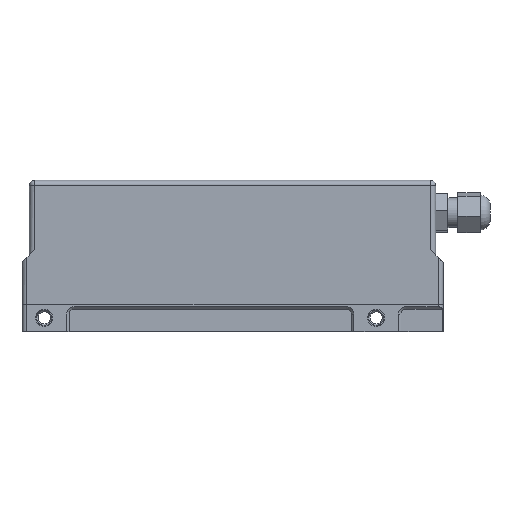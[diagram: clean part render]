
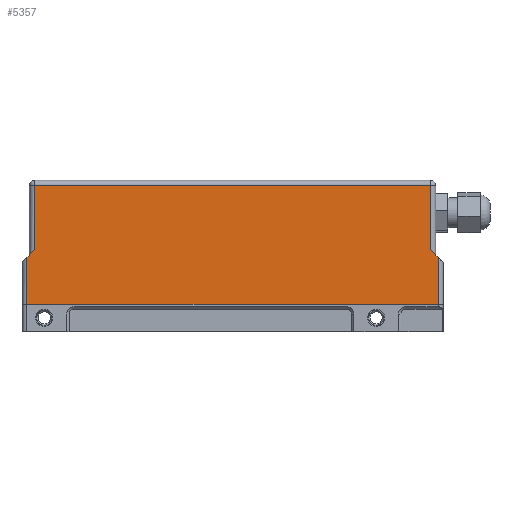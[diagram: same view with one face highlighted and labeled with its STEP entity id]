
A CAD part, top view. The second image highlights one B-rep face of the part: STEP entity #5357.
In plain terms, the highlighted planar face has unit normal (0, 0, 1).
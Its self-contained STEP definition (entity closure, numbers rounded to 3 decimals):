
#64 = CARTESIAN_POINT ( 'NONE',  ( 0., 50., 0. ) ) ;
#71 = PLANE ( 'NONE',  #3450 ) ;
#73 = DIRECTION ( 'NONE',  ( 0., 0., -1. ) ) ;
#74 = DIRECTION ( 'NONE',  ( -1., 0., 0. ) ) ;
#943 = FACE_OUTER_BOUND ( 'NONE', #7427, .T. ) ;
#1691 = VERTEX_POINT ( 'NONE', #4470 ) ;
#1702 = VERTEX_POINT ( 'NONE', #4481 ) ;
#2543 = EDGE_CURVE ( 'NONE', #7506, #7616, #6182, .T. ) ;
#2544 = EDGE_CURVE ( 'NONE', #1691, #7506, #6180, .T. ) ;
#2545 = EDGE_CURVE ( 'NONE', #1691, #7507, #6184, .T. ) ;
#2546 = EDGE_CURVE ( 'NONE', #7338, #7507, #6181, .T. ) ;
#2552 = EDGE_CURVE ( 'NONE', #7616, #1702, #6198, .T. ) ;
#2554 = EDGE_CURVE ( 'NONE', #7329, #1702, #6202, .T. ) ;
#2555 = EDGE_CURVE ( 'NONE', #7329, #7528, #6204, .T. ) ;
#2893 = CARTESIAN_POINT ( 'NONE',  ( -168., 19., 0. ) ) ;
#2902 = CARTESIAN_POINT ( 'NONE',  ( -2., 0., 0. ) ) ;
#2928 = CARTESIAN_POINT ( 'NONE',  ( -5., 48., 0. ) ) ;
#2929 = CARTESIAN_POINT ( 'NONE',  ( -2., 19., 0. ) ) ;
#2950 = CARTESIAN_POINT ( 'NONE',  ( -168., 0., 0. ) ) ;
#3034 = CARTESIAN_POINT ( 'NONE',  ( -165., 48., 0. ) ) ;
#3450 = AXIS2_PLACEMENT_3D ( 'NONE', #64, #73, #74 ) ;
#3558 = EDGE_CURVE ( 'NONE', #7528, #7338, #6552, .T. ) ;
#4258 = ORIENTED_EDGE ( 'NONE', *, *, #3558, .T. ) ;
#4470 = CARTESIAN_POINT ( 'NONE',  ( -5., 22., 0. ) ) ;
#4481 = CARTESIAN_POINT ( 'NONE',  ( -165., 22., 0. ) ) ;
#4500 = CARTESIAN_POINT ( 'NONE',  ( -5., 50., 0. ) ) ;
#4501 = CARTESIAN_POINT ( 'NONE',  ( -2., 50., 0. ) ) ;
#4502 = DIRECTION ( 'NONE',  ( -1., 0., 0. ) ) ;
#4503 = CARTESIAN_POINT ( 'NONE',  ( -167., 48., 0. ) ) ;
#4505 = DIRECTION ( 'NONE',  ( 0., 1., 0. ) ) ;
#4506 = CARTESIAN_POINT ( 'NONE',  ( 0., 17., 0. ) ) ;
#4508 = DIRECTION ( 'NONE',  ( 0.707, -0.707, 0. ) ) ;
#4509 = DIRECTION ( 'NONE',  ( 0., 1., 0. ) ) ;
#4520 = CARTESIAN_POINT ( 'NONE',  ( -165., 50., 0. ) ) ;
#4521 = DIRECTION ( 'NONE',  ( 0., -1., 0. ) ) ;
#4524 = CARTESIAN_POINT ( 'NONE',  ( -170., 17., 0. ) ) ;
#4525 = DIRECTION ( 'NONE',  ( 0.707, 0.707, 0. ) ) ;
#4526 = CARTESIAN_POINT ( 'NONE',  ( -168., 50., 0. ) ) ;
#4527 = DIRECTION ( 'NONE',  ( 0., -1., 0. ) ) ;
#5357 = ADVANCED_FACE ( 'NONE', ( #943 ), #71, .F. ) ;
#5862 = CARTESIAN_POINT ( 'NONE',  ( 0., 0., 0. ) ) ;
#5863 = DIRECTION ( 'NONE',  ( 1., 0., 0. ) ) ;
#6063 = ORIENTED_EDGE ( 'NONE', *, *, #2552, .T. ) ;
#6064 = ORIENTED_EDGE ( 'NONE', *, *, #2543, .T. ) ;
#6066 = ORIENTED_EDGE ( 'NONE', *, *, #2554, .F. ) ;
#6072 = ORIENTED_EDGE ( 'NONE', *, *, #2544, .T. ) ;
#6076 = ORIENTED_EDGE ( 'NONE', *, *, #2555, .T. ) ;
#6085 = ORIENTED_EDGE ( 'NONE', *, *, #2545, .F. ) ;
#6096 = ORIENTED_EDGE ( 'NONE', *, *, #2546, .T. ) ;
#6180 = LINE ( 'NONE', #4500, #6185 ) ;
#6181 = LINE ( 'NONE', #4501, #6189 ) ;
#6182 = LINE ( 'NONE', #4503, #6183 ) ;
#6183 = VECTOR ( 'NONE', #4502, 1000. ) ;
#6184 = LINE ( 'NONE', #4506, #6187 ) ;
#6185 = VECTOR ( 'NONE', #4505, 1000. ) ;
#6187 = VECTOR ( 'NONE', #4508, 1000. ) ;
#6189 = VECTOR ( 'NONE', #4509, 1000. ) ;
#6198 = LINE ( 'NONE', #4520, #6201 ) ;
#6201 = VECTOR ( 'NONE', #4521, 1000. ) ;
#6202 = LINE ( 'NONE', #4524, #6205 ) ;
#6204 = LINE ( 'NONE', #4526, #6207 ) ;
#6205 = VECTOR ( 'NONE', #4525, 1000. ) ;
#6207 = VECTOR ( 'NONE', #4527, 1000. ) ;
#6552 = LINE ( 'NONE', #5862, #6555 ) ;
#6555 = VECTOR ( 'NONE', #5863, 1000. ) ;
#7329 = VERTEX_POINT ( 'NONE', #2893 ) ;
#7338 = VERTEX_POINT ( 'NONE', #2902 ) ;
#7427 = EDGE_LOOP ( 'NONE', ( #4258, #6096, #6085, #6072, #6064, #6063, #6066, #6076 ) ) ;
#7506 = VERTEX_POINT ( 'NONE', #2928 ) ;
#7507 = VERTEX_POINT ( 'NONE', #2929 ) ;
#7528 = VERTEX_POINT ( 'NONE', #2950 ) ;
#7616 = VERTEX_POINT ( 'NONE', #3034 ) ;
